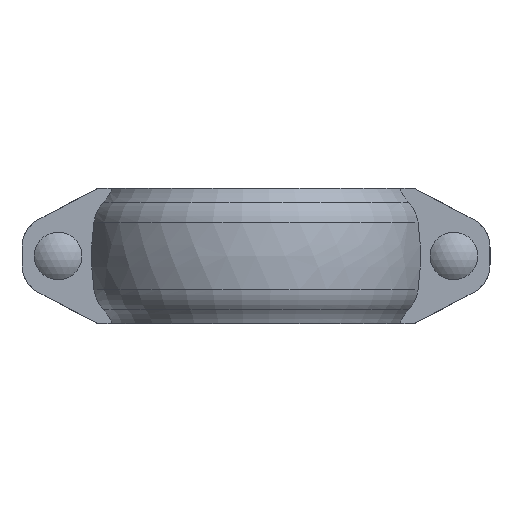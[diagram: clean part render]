
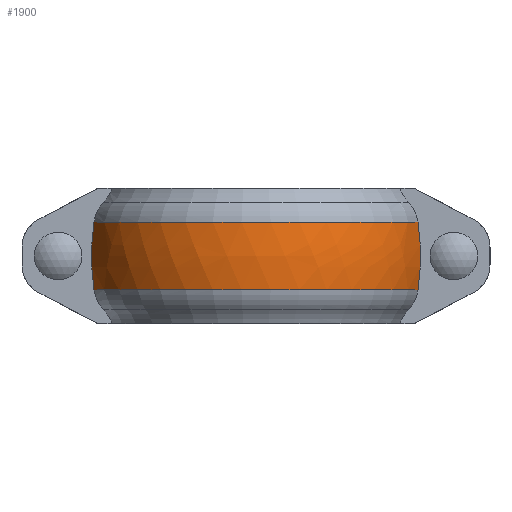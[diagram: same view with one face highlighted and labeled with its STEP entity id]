
A CAD part, front view. The second image highlights one B-rep face of the part: STEP entity #1900.
In plain terms, the highlighted free-form (B-spline) face has degree [2, 2] with [3, 5] control points.
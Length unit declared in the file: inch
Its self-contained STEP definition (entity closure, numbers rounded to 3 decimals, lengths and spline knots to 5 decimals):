
#27=(
BOUNDED_SURFACE()
B_SPLINE_SURFACE(2,2,((#3453,#3454,#3455,#3456,#3457),(#3458,#3459,#3460,
#3461,#3462),(#3463,#3464,#3465,#3466,#3467)),.UNSPECIFIED.,.F.,.F.,.F.)
B_SPLINE_SURFACE_WITH_KNOTS((3,3),(3,2,3),(-0.14335,0.14335),
(0.26711,1.5708,2.87449),.UNSPECIFIED.)
GEOMETRIC_REPRESENTATION_ITEM()
RATIONAL_B_SPLINE_SURFACE(((1.,0.795,1.,0.795,1.),
(0.99,0.787,0.99,0.787,
0.99),(1.,0.795,1.,0.795,1.)))
REPRESENTATION_ITEM('')
SURFACE()
);
#62=B_SPLINE_CURVE_WITH_KNOTS('',3,(#3219,#3220,#3221,#3222,#3223,#3224),
 .UNSPECIFIED.,.F.,.F.,(4,2,4),(9.67879,10.96334,12.24789),
 .UNSPECIFIED.);
#72=B_SPLINE_CURVE_WITH_KNOTS('',3,(#3327,#3328,#3329,#3330,#3331,#3332),
 .UNSPECIFIED.,.F.,.F.,(4,2,4),(31.60547,32.89002,34.17458),
 .UNSPECIFIED.);
#236=FACE_OUTER_BOUND('',#341,.T.);
#341=EDGE_LOOP('',(#1685,#1686,#1687,#1688));
#700=CIRCLE('',#2120,2.65154);
#705=CIRCLE('',#2131,2.65154);
#865=VERTEX_POINT('',#3207);
#866=VERTEX_POINT('',#3218);
#877=VERTEX_POINT('',#3315);
#878=VERTEX_POINT('',#3326);
#1111=EDGE_CURVE('',#866,#865,#62,.T.);
#1129=EDGE_CURVE('',#878,#877,#72,.T.);
#1148=EDGE_CURVE('',#878,#865,#700,.T.);
#1154=EDGE_CURVE('',#877,#866,#705,.T.);
#1685=ORIENTED_EDGE('',*,*,#1111,.T.);
#1686=ORIENTED_EDGE('',*,*,#1148,.F.);
#1687=ORIENTED_EDGE('',*,*,#1129,.T.);
#1688=ORIENTED_EDGE('',*,*,#1154,.T.);
#1900=ADVANCED_FACE('',(#236),#27,.F.);
#2120=AXIS2_PLACEMENT_3D('',#3438,#2619,#2620);
#2131=AXIS2_PLACEMENT_3D('',#3452,#2642,#2643);
#2619=DIRECTION('center_axis',(0.,0.,-1.));
#2620=DIRECTION('ref_axis',(1.,0.,0.));
#2642=DIRECTION('center_axis',(0.,0.,-1.));
#2643=DIRECTION('ref_axis',(1.,0.,0.));
#3207=CARTESIAN_POINT('',(2.55471,0.71,-0.53571));
#3218=CARTESIAN_POINT('',(2.55471,0.71,0.53571));
#3219=CARTESIAN_POINT('Ctrl Pts',(2.55471,0.71,0.53571));
#3220=CARTESIAN_POINT('Ctrl Pts',(2.58205,0.71,0.35325));
#3221=CARTESIAN_POINT('Ctrl Pts',(2.59461,0.71,0.16858));
#3222=CARTESIAN_POINT('Ctrl Pts',(2.59461,0.71,-0.16858));
#3223=CARTESIAN_POINT('Ctrl Pts',(2.58205,0.71,-0.35325));
#3224=CARTESIAN_POINT('Ctrl Pts',(2.55471,0.71,-0.53571));
#3315=CARTESIAN_POINT('',(-2.55471,0.71,0.53571));
#3326=CARTESIAN_POINT('',(-2.55471,0.71,-0.53571));
#3327=CARTESIAN_POINT('Ctrl Pts',(-2.55471,0.71,-0.53571));
#3328=CARTESIAN_POINT('Ctrl Pts',(-2.58205,0.71,-0.35325));
#3329=CARTESIAN_POINT('Ctrl Pts',(-2.59461,0.71,-0.16858));
#3330=CARTESIAN_POINT('Ctrl Pts',(-2.59461,0.71,0.16858));
#3331=CARTESIAN_POINT('Ctrl Pts',(-2.58205,0.71,0.35325));
#3332=CARTESIAN_POINT('Ctrl Pts',(-2.55471,0.71,0.53571));
#3438=CARTESIAN_POINT('Origin',(0.,0.,-0.53571));
#3452=CARTESIAN_POINT('Origin',(0.,0.,0.53571));
#3453=CARTESIAN_POINT('Ctrl Pts',(-2.55751,0.69985,0.53571));
#3454=CARTESIAN_POINT('Ctrl Pts',(-2.02344,2.65154,0.53571));
#3455=CARTESIAN_POINT('Ctrl Pts',(0.,2.65154,0.53571));
#3456=CARTESIAN_POINT('Ctrl Pts',(2.02344,2.65154,0.53571));
#3457=CARTESIAN_POINT('Ctrl Pts',(2.55751,0.69985,0.53571));
#3458=CARTESIAN_POINT('Ctrl Pts',(-2.63209,0.72026,0.));
#3459=CARTESIAN_POINT('Ctrl Pts',(-2.08245,2.72886,0.));
#3460=CARTESIAN_POINT('Ctrl Pts',(0.,2.72886,0.));
#3461=CARTESIAN_POINT('Ctrl Pts',(2.08245,2.72886,0.));
#3462=CARTESIAN_POINT('Ctrl Pts',(2.63209,0.72026,0.));
#3463=CARTESIAN_POINT('Ctrl Pts',(-2.55751,0.69985,-0.53571));
#3464=CARTESIAN_POINT('Ctrl Pts',(-2.02344,2.65154,-0.53571));
#3465=CARTESIAN_POINT('Ctrl Pts',(0.,2.65154,-0.53571));
#3466=CARTESIAN_POINT('Ctrl Pts',(2.02344,2.65154,-0.53571));
#3467=CARTESIAN_POINT('Ctrl Pts',(2.55751,0.69985,-0.53571));
